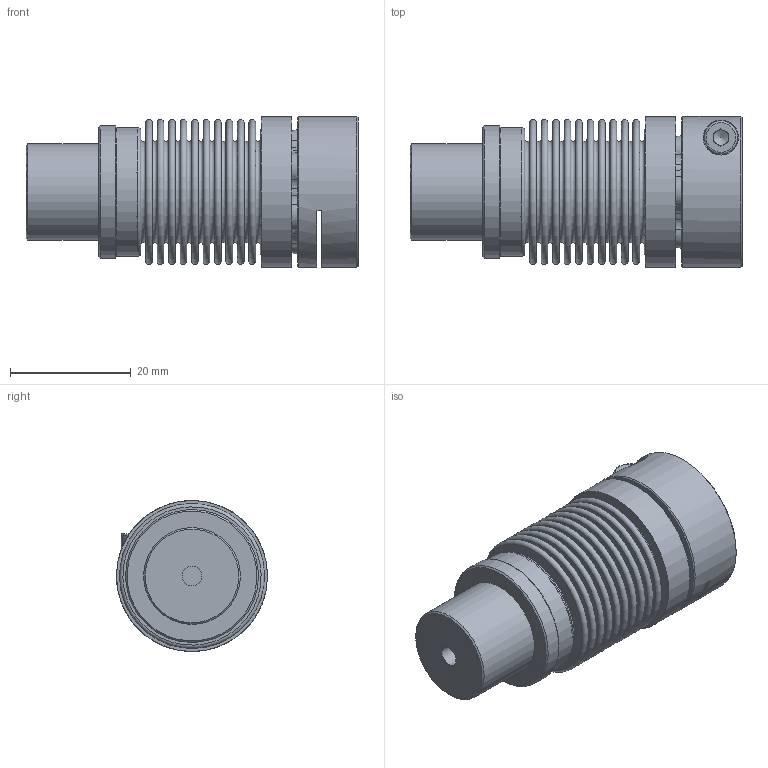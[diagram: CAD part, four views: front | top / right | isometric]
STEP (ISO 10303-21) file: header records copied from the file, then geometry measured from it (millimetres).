
FILE_DESCRIPTION( ( 'KBE1/14 - N7H8 - N14H7 - 98 Sh' ), '1' );
FILE_NAME( 'K:/Konstruktion/Fertigungszeichnungen/Metallbalgkupplung/KB3P/20/KB3P-20-43.stp', '14.12.2015', ( 'KBK-Antriebstechnik' ), ( 'KBK-Antriebstechnik' ), 'PSStep 16.0.42', 'Solid Edge St6', ' ' );
FILE_SCHEMA( ( 'AUTOMOTIVE_DESIGN { 1 0 10303 214 1 1 1 1 }' ) );
Length unit declared in the file: millimetre
Products named in the file (7): Assem1; Stecknabe KB2P-20; Balgaufnahme KB2P-20 für Step; BL20_Standard_0; Socket Head Cap Screw_DIN_DIN 912 M3 x 10 --- 10N_0; SN20; ISO EN DIN 4762 M4x16
Assembly tree (6 placements, depth 2):
  Assem1
    Stecknabe KB2P-20
    Balgaufnahme KB2P-20 für Step
    BL20_Standard_0
    Socket Head Cap Screw_DIN_DIN 912 M3 x 10 --- 10N_0
    SN20
    ISO EN DIN 4762 M4x16
Bounding box: 54.95 x 25 x 25 mm (x, y, z)
Volume: 13210.9 mm3; surface area: 18969.8 mm2
Topology: 6 solids, 6 shells, 230 faces, 469 edges, 303 vertices
Faces by surface type: plane 91, cone 66, torus 51, cylinder 22
Full cylindrical faces by diameter (mm): 2.459 x1, 3 x2, 3.2 x1, 3.3 x1, 3.5 x1, 4 x2, 5.5 x1, 7 x1, 16 x1, 21 x3, 21.3 x2, 22 x1, 25 x2
Entity records: 7844 total; most frequent: DIRECTION 1102, CARTESIAN_POINT 1094, ORIENTED_EDGE 760, AXIS2_PLACEMENT_3D 498, EDGE_CURVE 380, EDGE_LOOP 375, VERTEX_POINT 314, FACE_OUTER_BOUND 300
